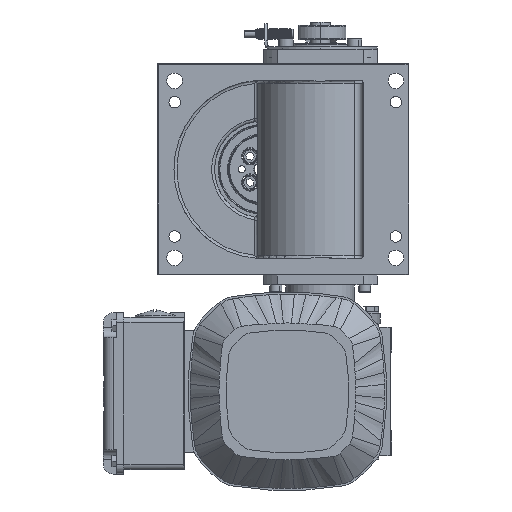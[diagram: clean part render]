
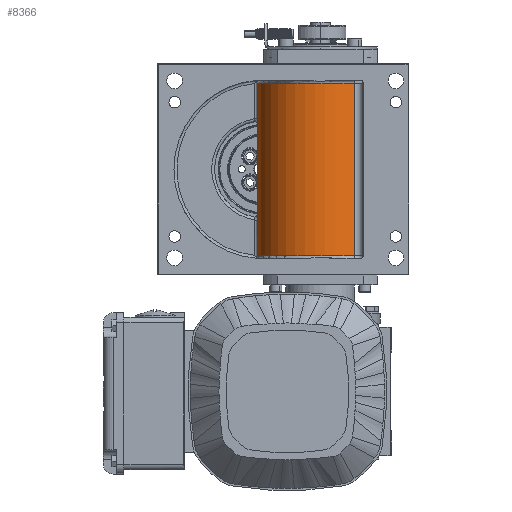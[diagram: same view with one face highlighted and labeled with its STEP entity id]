
A CAD part, front view. The second image highlights one B-rep face of the part: STEP entity #8366.
In plain terms, the highlighted cylindrical face has radius 44 mm (diameter 88 mm), a partial arc.
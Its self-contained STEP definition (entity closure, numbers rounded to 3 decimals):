
#95 = DIRECTION ( 'NONE',  ( 1., 0., 0. ) ) ;
#222 = CYLINDRICAL_SURFACE ( 'NONE', #27917, 44. ) ;
#410 = EDGE_CURVE ( 'NONE', #34880, #2170, #55770, .T. ) ;
#2170 = VERTEX_POINT ( 'NONE', #15908 ) ;
#5262 = VECTOR ( 'NONE', #28320, 1000. ) ;
#6242 = VECTOR ( 'NONE', #16616, 1000. ) ;
#8366 = ADVANCED_FACE ( 'NONE', ( #38758 ), #222, .T. ) ;
#8991 = DIRECTION ( 'NONE',  ( 0., 0., 1. ) ) ;
#14393 = VERTEX_POINT ( 'NONE', #32988 ) ;
#15908 = CARTESIAN_POINT ( 'NONE',  ( -42.624, -21.238, 101.009 ) ) ;
#16616 = DIRECTION ( 'NONE',  ( 0., 0., 1. ) ) ;
#17153 = CIRCLE ( 'NONE', #19134, 44. ) ;
#19134 = AXIS2_PLACEMENT_3D ( 'NONE', #61700, #8991, #95 ) ;
#20430 = ORIENTED_EDGE ( 'NONE', *, *, #36180, .T. ) ;
#21725 = ORIENTED_EDGE ( 'NONE', *, *, #47234, .T. ) ;
#27917 = AXIS2_PLACEMENT_3D ( 'NONE', #37817, #29279, #57986 ) ;
#28320 = DIRECTION ( 'NONE',  ( 0., 0., -1. ) ) ;
#29279 = DIRECTION ( 'NONE',  ( 0., 0., -1. ) ) ;
#30805 = LINE ( 'NONE', #50078, #6242 ) ;
#31443 = CARTESIAN_POINT ( 'NONE',  ( 1.376, -21.238, 101.009 ) ) ;
#31762 = DIRECTION ( 'NONE',  ( 1., 0., 0. ) ) ;
#32906 = CARTESIAN_POINT ( 'NONE',  ( -42.624, -21.238, -19.791 ) ) ;
#32988 = CARTESIAN_POINT ( 'NONE',  ( 25.209, -58.224, -19.791 ) ) ;
#34501 = EDGE_CURVE ( 'NONE', #54211, #14393, #17153, .T. ) ;
#34880 = VERTEX_POINT ( 'NONE', #51681 ) ;
#36180 = EDGE_CURVE ( 'NONE', #2170, #54211, #42542, .T. ) ;
#36458 = ORIENTED_EDGE ( 'NONE', *, *, #410, .T. ) ;
#37627 = AXIS2_PLACEMENT_3D ( 'NONE', #31443, #40283, #31762 ) ;
#37817 = CARTESIAN_POINT ( 'NONE',  ( 1.376, -21.238, 103.009 ) ) ;
#38758 = FACE_OUTER_BOUND ( 'NONE', #39827, .T. ) ;
#39827 = EDGE_LOOP ( 'NONE', ( #20430, #57836, #21725, #36458 ) ) ;
#40283 = DIRECTION ( 'NONE',  ( 0., 0., -1. ) ) ;
#42542 = LINE ( 'NONE', #56408, #5262 ) ;
#47234 = EDGE_CURVE ( 'NONE', #14393, #34880, #30805, .T. ) ;
#50078 = CARTESIAN_POINT ( 'NONE',  ( 25.209, -58.224, 103.009 ) ) ;
#51681 = CARTESIAN_POINT ( 'NONE',  ( 25.209, -58.224, 101.009 ) ) ;
#54211 = VERTEX_POINT ( 'NONE', #32906 ) ;
#55770 = CIRCLE ( 'NONE', #37627, 44. ) ;
#56408 = CARTESIAN_POINT ( 'NONE',  ( -42.624, -21.238, 103.009 ) ) ;
#57836 = ORIENTED_EDGE ( 'NONE', *, *, #34501, .T. ) ;
#57986 = DIRECTION ( 'NONE',  ( -1., 0., 0. ) ) ;
#61700 = CARTESIAN_POINT ( 'NONE',  ( 1.376, -21.238, -19.791 ) ) ;
